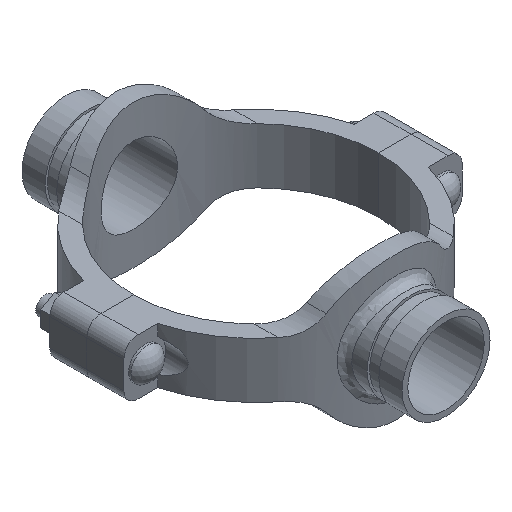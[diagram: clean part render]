
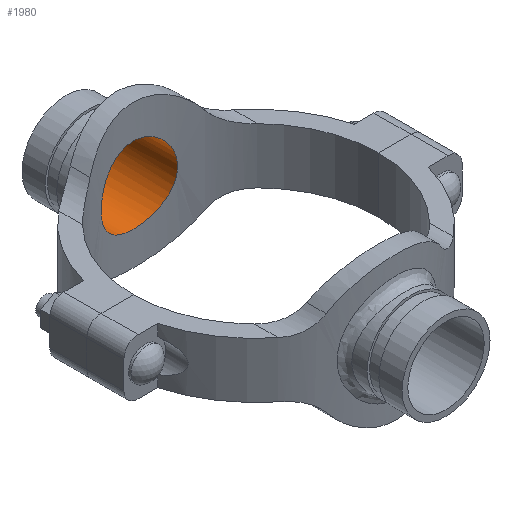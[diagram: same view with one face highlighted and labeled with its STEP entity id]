
A CAD part, isometric view. The second image highlights one B-rep face of the part: STEP entity #1980.
In plain terms, the highlighted cylindrical face has radius 26.194 mm (diameter 52.387 mm), a full revolution.
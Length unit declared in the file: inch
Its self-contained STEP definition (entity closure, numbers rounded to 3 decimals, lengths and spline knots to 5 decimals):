
#35=B_SPLINE_CURVE_WITH_KNOTS('',3,(#3398,#3399,#3400,#3401,#3402,#3403,
#3404,#3405,#3406,#3407,#3408,#3409,#3410,#3411,#3412,#3413,#3414,#3415,
#3416,#3417,#3418,#3419,#3420,#3421,#3422,#3423,#3424,#3425,#3426,#3427,
#3428,#3429,#3430,#3431,#3432,#3433,#3434,#3435,#3436,#3437,#3438,#3439,
#3440,#3441,#3442,#3443,#3444,#3445,#3446,#3447,#3448,#3449,#3450,#3451,
#3452,#3453,#3454,#3455,#3456,#3457,#3458,#3459,#3460,#3461,#3462,#3463),
 .UNSPECIFIED.,.T.,.F.,(4,2,2,2,2,2,2,2,2,2,2,2,2,2,2,2,2,2,2,2,2,2,2,2,
2,2,2,2,2,2,2,2,4),(0.,0.49702,0.99403,1.49105,
1.98806,2.4849,2.98175,3.47859,3.97543,
4.47227,4.96912,5.46596,5.9628,6.45982,
6.95683,7.45385,7.95086,8.44788,8.94489,
9.44191,9.93892,10.43576,10.93261,11.42945,
11.92629,12.42313,12.91998,13.41682,13.91366,
14.41068,14.90769,15.40471,15.90172),
 .UNSPECIFIED.);
#77=CYLINDRICAL_SURFACE('',#2186,1.03125);
#178=FACE_OUTER_BOUND('',#293,.T.);
#293=EDGE_LOOP('',(#1408,#1409,#1410,#1411));
#440=LINE('',#3397,#590);
#590=VECTOR('',#2532,1.03125);
#713=CIRCLE('',#2187,1.03125);
#846=VERTEX_POINT('',#3394);
#847=VERTEX_POINT('',#3396);
#1062=EDGE_CURVE('',#846,#846,#713,.T.);
#1063=EDGE_CURVE('',#846,#847,#440,.T.);
#1064=EDGE_CURVE('',#847,#847,#35,.T.);
#1408=ORIENTED_EDGE('',*,*,#1062,.F.);
#1409=ORIENTED_EDGE('',*,*,#1063,.T.);
#1410=ORIENTED_EDGE('',*,*,#1064,.F.);
#1411=ORIENTED_EDGE('',*,*,#1063,.F.);
#1980=ADVANCED_FACE('',(#178),#77,.F.);
#2186=AXIS2_PLACEMENT_3D('',#3393,#2528,#2529);
#2187=AXIS2_PLACEMENT_3D('',#3395,#2530,#2531);
#2528=DIRECTION('center_axis',(0.,-1.,0.));
#2529=DIRECTION('ref_axis',(-1.,0.,0.));
#2530=DIRECTION('center_axis',(0.,-1.,0.));
#2531=DIRECTION('ref_axis',(-1.,0.,0.));
#2532=DIRECTION('',(0.,-1.,0.));
#3393=CARTESIAN_POINT('Origin',(0.,5.13,0.));
#3394=CARTESIAN_POINT('',(1.03125,5.13,0.));
#3395=CARTESIAN_POINT('Origin',(0.,5.13,0.));
#3396=CARTESIAN_POINT('',(1.03125,3.14788,0.));
#3397=CARTESIAN_POINT('',(1.03125,5.13,0.));
#3398=CARTESIAN_POINT('Ctrl Pts',(1.03125,3.14788,0.));
#3399=CARTESIAN_POINT('Ctrl Pts',(1.03125,3.14788,-0.06523));
#3400=CARTESIAN_POINT('Ctrl Pts',(1.02496,3.14997,-0.13253));
#3401=CARTESIAN_POINT('Ctrl Pts',(0.99865,3.15841,-0.26611));
#3402=CARTESIAN_POINT('Ctrl Pts',(0.97863,3.16476,-0.3324));
#3403=CARTESIAN_POINT('Ctrl Pts',(0.92588,3.18059,-0.45929));
#3404=CARTESIAN_POINT('Ctrl Pts',(0.89311,3.19007,-0.52001));
#3405=CARTESIAN_POINT('Ctrl Pts',(0.81754,3.21027,-0.63219));
#3406=CARTESIAN_POINT('Ctrl Pts',(0.77475,3.22096,-0.68366));
#3407=CARTESIAN_POINT('Ctrl Pts',(0.68367,3.24152,-0.77473));
#3408=CARTESIAN_POINT('Ctrl Pts',(0.63222,3.25211,-0.81753));
#3409=CARTESIAN_POINT('Ctrl Pts',(0.52003,3.27192,-0.8931));
#3410=CARTESIAN_POINT('Ctrl Pts',(0.4593,3.28113,-0.92587));
#3411=CARTESIAN_POINT('Ctrl Pts',(0.33238,3.2964,-0.97863));
#3412=CARTESIAN_POINT('Ctrl Pts',(0.26608,3.30247,-0.99865));
#3413=CARTESIAN_POINT('Ctrl Pts',(0.1325,3.31053,-1.02497));
#3414=CARTESIAN_POINT('Ctrl Pts',(0.0652,3.3125,-1.03125));
#3415=CARTESIAN_POINT('Ctrl Pts',(-0.0652,3.3125,-1.03125));
#3416=CARTESIAN_POINT('Ctrl Pts',(-0.1325,3.31053,-1.02497));
#3417=CARTESIAN_POINT('Ctrl Pts',(-0.26608,3.30247,-0.99865));
#3418=CARTESIAN_POINT('Ctrl Pts',(-0.33238,3.2964,-0.97863));
#3419=CARTESIAN_POINT('Ctrl Pts',(-0.4593,3.28113,-0.92587));
#3420=CARTESIAN_POINT('Ctrl Pts',(-0.52003,3.27192,-0.8931));
#3421=CARTESIAN_POINT('Ctrl Pts',(-0.63222,3.25211,-0.81753));
#3422=CARTESIAN_POINT('Ctrl Pts',(-0.68367,3.24152,-0.77473));
#3423=CARTESIAN_POINT('Ctrl Pts',(-0.77475,3.22096,-0.68366));
#3424=CARTESIAN_POINT('Ctrl Pts',(-0.81754,3.21027,-0.63219));
#3425=CARTESIAN_POINT('Ctrl Pts',(-0.89311,3.19007,-0.52001));
#3426=CARTESIAN_POINT('Ctrl Pts',(-0.92588,3.18059,-0.45929));
#3427=CARTESIAN_POINT('Ctrl Pts',(-0.97863,3.16476,-0.3324));
#3428=CARTESIAN_POINT('Ctrl Pts',(-0.99865,3.15841,-0.26611));
#3429=CARTESIAN_POINT('Ctrl Pts',(-1.02496,3.14997,-0.13253));
#3430=CARTESIAN_POINT('Ctrl Pts',(-1.03125,3.14788,-0.06523));
#3431=CARTESIAN_POINT('Ctrl Pts',(-1.03125,3.14788,0.06523));
#3432=CARTESIAN_POINT('Ctrl Pts',(-1.02496,3.14997,0.13253));
#3433=CARTESIAN_POINT('Ctrl Pts',(-0.99865,3.15841,0.26611));
#3434=CARTESIAN_POINT('Ctrl Pts',(-0.97863,3.16476,0.3324));
#3435=CARTESIAN_POINT('Ctrl Pts',(-0.92588,3.18059,0.45929));
#3436=CARTESIAN_POINT('Ctrl Pts',(-0.89311,3.19007,0.52001));
#3437=CARTESIAN_POINT('Ctrl Pts',(-0.81754,3.21027,0.63219));
#3438=CARTESIAN_POINT('Ctrl Pts',(-0.77475,3.22096,0.68366));
#3439=CARTESIAN_POINT('Ctrl Pts',(-0.68367,3.24152,0.77473));
#3440=CARTESIAN_POINT('Ctrl Pts',(-0.63222,3.25211,0.81753));
#3441=CARTESIAN_POINT('Ctrl Pts',(-0.52003,3.27192,0.8931));
#3442=CARTESIAN_POINT('Ctrl Pts',(-0.4593,3.28113,0.92587));
#3443=CARTESIAN_POINT('Ctrl Pts',(-0.33238,3.2964,0.97863));
#3444=CARTESIAN_POINT('Ctrl Pts',(-0.26608,3.30247,0.99865));
#3445=CARTESIAN_POINT('Ctrl Pts',(-0.1325,3.31053,1.02497));
#3446=CARTESIAN_POINT('Ctrl Pts',(-0.0652,3.3125,1.03125));
#3447=CARTESIAN_POINT('Ctrl Pts',(0.0652,3.3125,1.03125));
#3448=CARTESIAN_POINT('Ctrl Pts',(0.1325,3.31053,1.02497));
#3449=CARTESIAN_POINT('Ctrl Pts',(0.26608,3.30247,0.99865));
#3450=CARTESIAN_POINT('Ctrl Pts',(0.33238,3.2964,0.97863));
#3451=CARTESIAN_POINT('Ctrl Pts',(0.4593,3.28113,0.92587));
#3452=CARTESIAN_POINT('Ctrl Pts',(0.52003,3.27192,0.8931));
#3453=CARTESIAN_POINT('Ctrl Pts',(0.63222,3.25211,0.81753));
#3454=CARTESIAN_POINT('Ctrl Pts',(0.68367,3.24152,0.77473));
#3455=CARTESIAN_POINT('Ctrl Pts',(0.77475,3.22096,0.68366));
#3456=CARTESIAN_POINT('Ctrl Pts',(0.81754,3.21027,0.63219));
#3457=CARTESIAN_POINT('Ctrl Pts',(0.89311,3.19007,0.52001));
#3458=CARTESIAN_POINT('Ctrl Pts',(0.92588,3.18059,0.45929));
#3459=CARTESIAN_POINT('Ctrl Pts',(0.97863,3.16476,0.3324));
#3460=CARTESIAN_POINT('Ctrl Pts',(0.99865,3.15841,0.26611));
#3461=CARTESIAN_POINT('Ctrl Pts',(1.02496,3.14997,0.13253));
#3462=CARTESIAN_POINT('Ctrl Pts',(1.03125,3.14788,0.06523));
#3463=CARTESIAN_POINT('Ctrl Pts',(1.03125,3.14788,0.));
